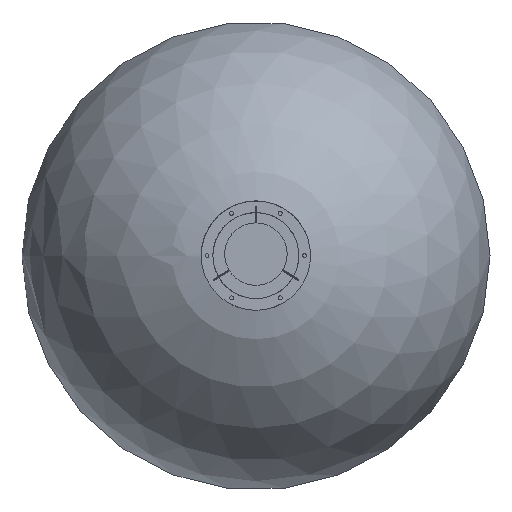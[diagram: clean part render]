
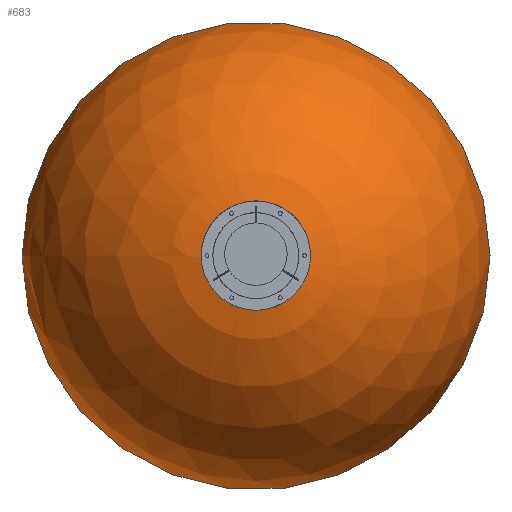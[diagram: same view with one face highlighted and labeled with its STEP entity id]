
A CAD part, top view. The second image highlights one B-rep face of the part: STEP entity #683.
In plain terms, the highlighted spherical face has radius 300 mm.
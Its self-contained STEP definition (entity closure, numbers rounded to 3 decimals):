
#12=SPHERICAL_SURFACE('',#819,300.);
#197=FACE_OUTER_BOUND('',#263,.T.);
#263=EDGE_LOOP('',(#622,#623,#624));
#304=CIRCLE('',#818,40.);
#305=CIRCLE('',#820,300.);
#380=VERTEX_POINT('',#2033);
#381=VERTEX_POINT('',#2037);
#461=EDGE_CURVE('',#380,#380,#304,.T.);
#462=EDGE_CURVE('',#381,#380,#305,.T.);
#622=ORIENTED_EDGE('',*,*,#461,.T.);
#623=ORIENTED_EDGE('',*,*,#462,.F.);
#624=ORIENTED_EDGE('',*,*,#462,.T.);
#683=ADVANCED_FACE('',(#197),#12,.T.);
#818=AXIS2_PLACEMENT_3D('',#2035,#1027,#1028);
#819=AXIS2_PLACEMENT_3D('',#2036,#1029,#1030);
#820=AXIS2_PLACEMENT_3D('',#2038,#1031,#1032);
#1027=DIRECTION('center_axis',(0.,0.,1.));
#1028=DIRECTION('ref_axis',(1.,0.,0.));
#1029=DIRECTION('center_axis',(0.,0.,1.));
#1030=DIRECTION('ref_axis',(1.,0.,0.));
#1031=DIRECTION('center_axis',(0.,-1.,0.));
#1032=DIRECTION('ref_axis',(-1.,0.,0.));
#2033=CARTESIAN_POINT('',(-40.,0.,0.));
#2035=CARTESIAN_POINT('Origin',(0.,0.,0.));
#2036=CARTESIAN_POINT('Origin',(0.,0.,297.321));
#2037=CARTESIAN_POINT('',(0.,0.,597.321));
#2038=CARTESIAN_POINT('Origin',(0.,0.,297.321));
